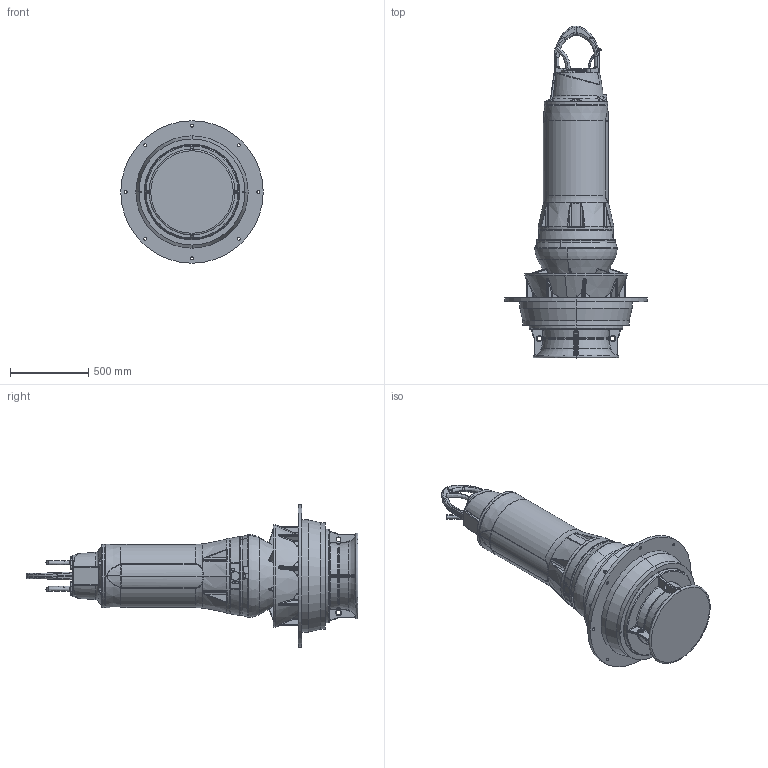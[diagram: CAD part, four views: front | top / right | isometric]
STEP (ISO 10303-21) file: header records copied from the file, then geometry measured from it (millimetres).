
FILE_DESCRIPTION (( 'STEP AP214' ), '1' );
FILE_NAME ('PE5_VUPX0501-2_FU_A_NG2.STEP', '2017-04-07T09:52:40', ( '' ), ( '' ), 'SwSTEP 2.0', 'SolidWorks 2017', '' );
FILE_SCHEMA (( 'AUTOMOTIVE_DESIGN' ));
Length unit declared in the file: millimetre
Products named in the file (1): PE5_VUPX0501-2_FU_A_NG2
Bounding box: 913 x 2126.96 x 913 mm (x, y, z)
Volume: 314834005 mm3; surface area: 5426271.2 mm2
Topology: 4 solids, 9 shells, 1724 faces, 4142 edges, 2432 vertices
Faces by surface type: bspline 643, cylinder 417, plane 282, torus 208, cone 134, sphere 40
Entity records: 473397 total; most frequent: CARTESIAN_POINT 419318, ORIENTED_EDGE 8192, DIRECTION 6274, EDGE_CURVE 4096, AXIS2_PLACEMENT_3D 2681, VERTEX_POINT 2432, EDGE_LOOP 1800, UNCERTAINTY_MEASURE_WITH_UNIT 1730
